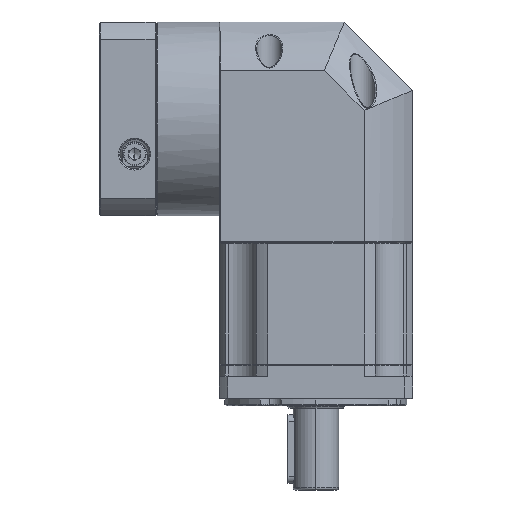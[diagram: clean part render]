
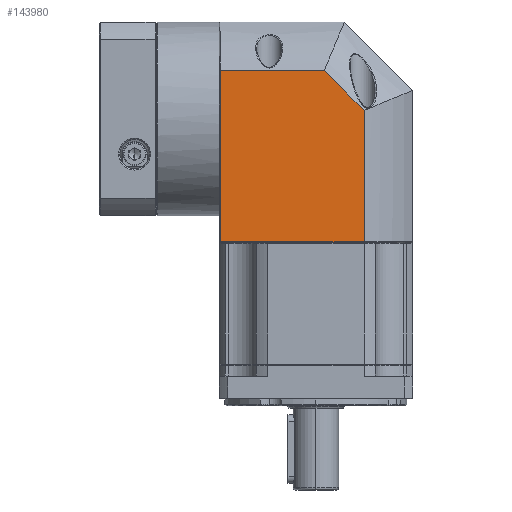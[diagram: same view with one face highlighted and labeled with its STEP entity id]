
A CAD part, left-side view. The second image highlights one B-rep face of the part: STEP entity #143980.
In plain terms, the highlighted planar face has unit normal (-1, 0, 0).
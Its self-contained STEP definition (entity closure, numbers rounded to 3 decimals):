
#13790 = PLANE ( 'NONE',  #139319 ) ;
#22908 = EDGE_CURVE ( 'NONE', #122090, #67124, #69874, .T. ) ;
#25447 = CARTESIAN_POINT ( 'NONE',  ( -65.225, -16.498, 134. ) ) ;
#30446 = LINE ( 'NONE', #112943, #98067 ) ;
#31287 = EDGE_CURVE ( 'NONE', #122090, #38865, #167713, .T. ) ;
#33978 = VECTOR ( 'NONE', #120077, 1000. ) ;
#36019 = CARTESIAN_POINT ( 'NONE',  ( -65.225, 46.715, 230.5 ) ) ;
#38865 = VERTEX_POINT ( 'NONE', #57821 ) ;
#46873 = LINE ( 'NONE', #77587, #114618 ) ;
#48351 = LINE ( 'NONE', #153173, #80039 ) ;
#55781 = ORIENTED_EDGE ( 'NONE', *, *, #70737, .F. ) ;
#55952 = EDGE_LOOP ( 'NONE', ( #172791, #66285, #55781, #98136, #104328 ) ) ;
#57821 = CARTESIAN_POINT ( 'NONE',  ( -65.225, 46.715, 209.213 ) ) ;
#64236 = VERTEX_POINT ( 'NONE', #155787 ) ;
#66285 = ORIENTED_EDGE ( 'NONE', *, *, #144607, .F. ) ;
#67124 = VERTEX_POINT ( 'NONE', #25447 ) ;
#68762 = CARTESIAN_POINT ( 'NONE',  ( -65.225, 47.215, 230.5 ) ) ;
#69874 = LINE ( 'NONE', #133704, #33978 ) ;
#70737 = EDGE_CURVE ( 'NONE', #64236, #124347, #48351, .T. ) ;
#77587 = CARTESIAN_POINT ( 'NONE',  ( -65.225, -16.498, 234. ) ) ;
#80039 = VECTOR ( 'NONE', #166749, 1000. ) ;
#82384 = DIRECTION ( 'NONE',  ( 0., 1., 0. ) ) ;
#98067 = VECTOR ( 'NONE', #126547, 1000. ) ;
#98136 = ORIENTED_EDGE ( 'NONE', *, *, #167879, .F. ) ;
#104328 = ORIENTED_EDGE ( 'NONE', *, *, #31287, .F. ) ;
#112943 = CARTESIAN_POINT ( 'NONE',  ( -65.225, 47.215, 209.213 ) ) ;
#114618 = VECTOR ( 'NONE', #145062, 1000. ) ;
#120077 = DIRECTION ( 'NONE',  ( 0., -1., 0. ) ) ;
#122090 = VERTEX_POINT ( 'NONE', #134050 ) ;
#124347 = VERTEX_POINT ( 'NONE', #157607 ) ;
#126547 = DIRECTION ( 'NONE',  ( 0., -1., 0. ) ) ;
#131771 = VECTOR ( 'NONE', #157763, 1000. ) ;
#133704 = CARTESIAN_POINT ( 'NONE',  ( -65.225, 47.215, 134. ) ) ;
#134050 = CARTESIAN_POINT ( 'NONE',  ( -65.225, 46.715, 134. ) ) ;
#139319 = AXIS2_PLACEMENT_3D ( 'NONE', #68762, #163404, #82384 ) ;
#143980 = ADVANCED_FACE ( 'NONE', ( #171125 ), #13790, .F. ) ;
#144607 = EDGE_CURVE ( 'NONE', #124347, #67124, #46873, .T. ) ;
#145062 = DIRECTION ( 'NONE',  ( 0., 0., -1. ) ) ;
#153173 = CARTESIAN_POINT ( 'NONE',  ( -65.225, 1.033, 209.213 ) ) ;
#155787 = CARTESIAN_POINT ( 'NONE',  ( -65.225, 1.033, 209.213 ) ) ;
#157607 = CARTESIAN_POINT ( 'NONE',  ( -65.225, -16.498, 191.683 ) ) ;
#157763 = DIRECTION ( 'NONE',  ( 0., 0., 1. ) ) ;
#163404 = DIRECTION ( 'NONE',  ( 1., 0., 0. ) ) ;
#166749 = DIRECTION ( 'NONE',  ( 0., -0.707, -0.707 ) ) ;
#167713 = LINE ( 'NONE', #36019, #131771 ) ;
#167879 = EDGE_CURVE ( 'NONE', #38865, #64236, #30446, .T. ) ;
#171125 = FACE_OUTER_BOUND ( 'NONE', #55952, .T. ) ;
#172791 = ORIENTED_EDGE ( 'NONE', *, *, #22908, .T. ) ;
